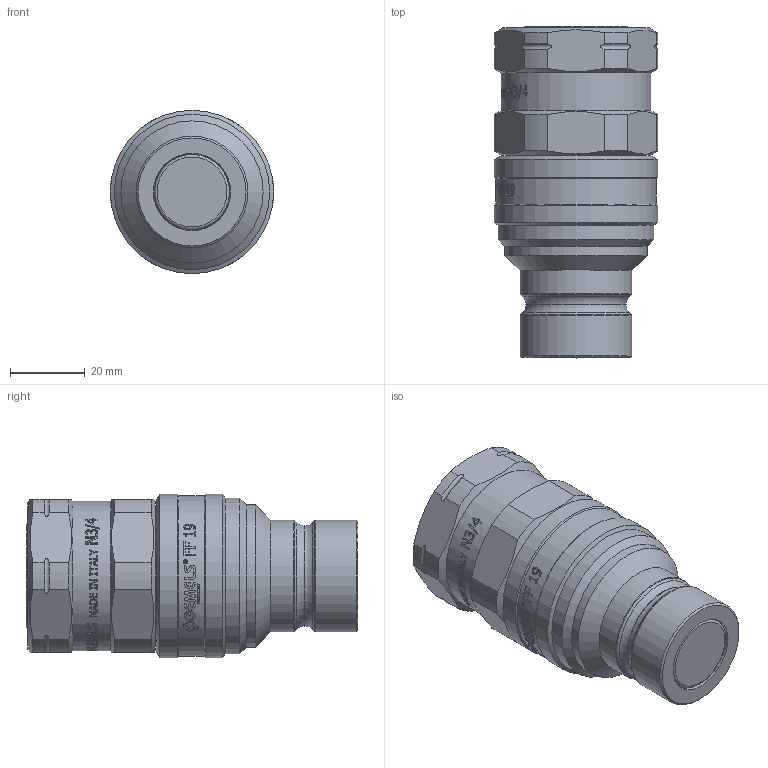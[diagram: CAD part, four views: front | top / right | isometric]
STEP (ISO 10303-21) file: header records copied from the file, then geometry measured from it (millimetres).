
FILE_DESCRIPTION(/* description */ (''),/* implementation_level */ '2;1');
FILE_NAME(/* name */ 'NC05N040005.stp',/* time_stamp */ '2024-08-26T15:37:07+02:00',/* author */ ('thomas.belotti'),/* organization */ (''),/* preprocessor_version */ 'ST-DEVELOPER v20',/* originating_system */ 'Autodesk Inventor 2024',/* authorisation */ '');
FILE_SCHEMA (('AUTOMOTIVE_DESIGN { 1 0 10303 214 3 1 1 }'));
Length unit declared in the file: millimetre
Products named in the file (1): Parte14
Bounding box: 43.73 x 88.8 x 43.7 mm (x, y, z)
Volume: 96048.1 mm3; surface area: 16991.9 mm2
Topology: 1 solids, 3 shells, 1226 faces, 3446 edges, 2293 vertices
Faces by surface type: bspline 733, plane 370, cylinder 95, cone 17, torus 11
Full cylindrical faces by diameter (mm): 20.7 x1, 22.631 x1, 23 x1, 24 x1, 26.9 x1, 27.5 x1, 29.95 x2, 37 x1, 37.3 x1, 38.05 x1, 40 x1, 41.6 x1, 43 x1, 43.7 x2
Entity records: 51900 total; most frequent: CARTESIAN_POINT 23695, ORIENTED_EDGE 6892, EDGE_CURVE 3446, DIRECTION 3392, VERTEX_POINT 2293, B_SPLINE_CURVE_WITH_KNOTS 1510, LINE 1412, VECTOR 1412
